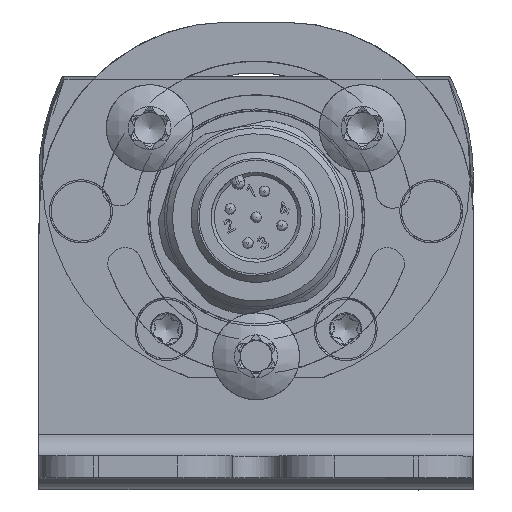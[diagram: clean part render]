
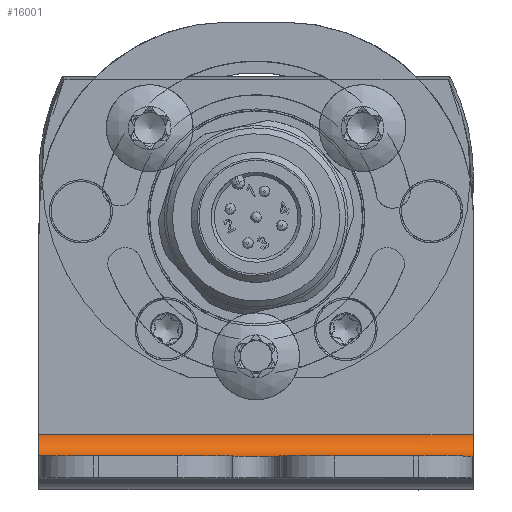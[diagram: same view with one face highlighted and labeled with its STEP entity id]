
A CAD part, top view. The second image highlights one B-rep face of the part: STEP entity #16001.
In plain terms, the highlighted cylindrical face has radius 2 mm (diameter 4 mm), a partial arc.
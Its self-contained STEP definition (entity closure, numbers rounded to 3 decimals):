
#2486=CIRCLE('',#17759,2.);
#2487=CIRCLE('',#17760,2.);
#2827=CYLINDRICAL_SURFACE('',#17758,2.);
#3610=FACE_OUTER_BOUND('',#4526,.T.);
#4526=EDGE_LOOP('',(#14386,#14387,#14388,#14389));
#4725=LINE('',#23125,#5606);
#5363=LINE('',#30974,#6244);
#5606=VECTOR('',#18299,10.);
#6244=VECTOR('',#21937,10.);
#6537=VERTEX_POINT('',#23122);
#6538=VERTEX_POINT('',#23124);
#7750=VERTEX_POINT('',#30972);
#7751=VERTEX_POINT('',#30973);
#8081=EDGE_CURVE('',#6537,#6538,#4725,.T.);
#10010=EDGE_CURVE('',#7750,#7751,#5363,.T.);
#10011=EDGE_CURVE('',#7750,#6538,#2486,.T.);
#10012=EDGE_CURVE('',#7751,#6537,#2487,.T.);
#14386=ORIENTED_EDGE('',*,*,#10010,.F.);
#14387=ORIENTED_EDGE('',*,*,#10011,.T.);
#14388=ORIENTED_EDGE('',*,*,#8081,.F.);
#14389=ORIENTED_EDGE('',*,*,#10012,.F.);
#16001=ADVANCED_FACE('',(#3610),#2827,.F.);
#17758=AXIS2_PLACEMENT_3D('',#30971,#21935,#21936);
#17759=AXIS2_PLACEMENT_3D('',#30975,#21938,#21939);
#17760=AXIS2_PLACEMENT_3D('',#30976,#21940,#21941);
#18299=DIRECTION('',(1.,-0.001,0.));
#21935=DIRECTION('center_axis',(-1.,0.001,
0.));
#21936=DIRECTION('ref_axis',(0.,0.,
-1.));
#21937=DIRECTION('',(-1.,0.001,0.));
#21938=DIRECTION('center_axis',(1.,-0.001,
0.));
#21939=DIRECTION('ref_axis',(-0.001,-1.,0.));
#21940=DIRECTION('center_axis',(1.,-0.001,
0.));
#21941=DIRECTION('ref_axis',(-0.001,-1.,0.));
#23122=CARTESIAN_POINT('',(41.249,90.151,773.612));
#23124=CARTESIAN_POINT('',(81.249,90.116,773.612));
#23125=CARTESIAN_POINT('',(41.249,90.151,773.612));
#30971=CARTESIAN_POINT('Origin',(61.249,90.134,775.612));
#30972=CARTESIAN_POINT('',(81.247,88.116,775.612));
#30973=CARTESIAN_POINT('',(41.247,88.151,775.612));
#30974=CARTESIAN_POINT('',(61.247,88.134,775.612));
#30975=CARTESIAN_POINT('Origin',(81.249,90.116,775.612));
#30976=CARTESIAN_POINT('Origin',(41.249,90.151,775.612));
